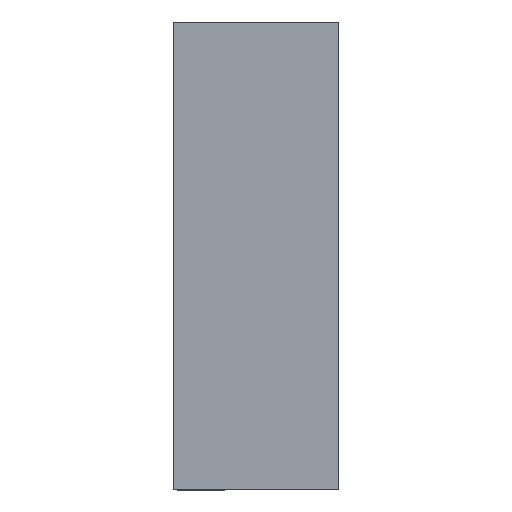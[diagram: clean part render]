
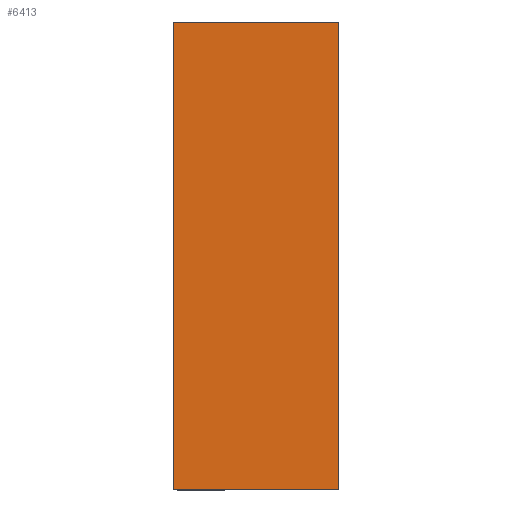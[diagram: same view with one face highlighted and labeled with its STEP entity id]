
A CAD part, top view. The second image highlights one B-rep face of the part: STEP entity #6413.
In plain terms, the highlighted planar face has unit normal (0, 0, 1).
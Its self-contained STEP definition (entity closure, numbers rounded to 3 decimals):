
#134 = PLANE('',#135);
#135 = AXIS2_PLACEMENT_3D('',#136,#137,#138);
#136 = CARTESIAN_POINT('',(-39.2,-18.9,-16.6));
#137 = DIRECTION('',(-0.,1.,0.));
#138 = DIRECTION('',(0.,0.,1.));
#296 = PLANE('',#297);
#297 = AXIS2_PLACEMENT_3D('',#298,#299,#300);
#298 = CARTESIAN_POINT('',(-39.2,2.9,-16.6));
#299 = DIRECTION('',(-0.,1.,0.));
#300 = DIRECTION('',(0.,0.,1.));
#1821 = VERTEX_POINT('',#1822);
#1822 = CARTESIAN_POINT('',(-39.2,2.9,-1.4));
#1836 = PLANE('',#1837);
#1837 = AXIS2_PLACEMENT_3D('',#1838,#1839,#1840);
#1838 = CARTESIAN_POINT('',(-39.2,-18.9,-3.4));
#1839 = DIRECTION('',(1.,0.,-0.));
#1840 = DIRECTION('',(0.,0.,1.));
#1848 = EDGE_CURVE('',#1821,#1849,#1851,.T.);
#1849 = VERTEX_POINT('',#1850);
#1850 = CARTESIAN_POINT('',(-31.5,2.9,-1.4));
#1851 = SURFACE_CURVE('',#1852,(#1856,#1863),.PCURVE_S1.);
#1852 = LINE('',#1853,#1854);
#1853 = CARTESIAN_POINT('',(-39.2,2.9,-1.4));
#1854 = VECTOR('',#1855,1.);
#1855 = DIRECTION('',(1.,0.,-0.));
#1856 = PCURVE('',#296,#1857);
#1857 = DEFINITIONAL_REPRESENTATION('',(#1858),#1862);
#1858 = LINE('',#1859,#1860);
#1859 = CARTESIAN_POINT('',(15.2,0.));
#1860 = VECTOR('',#1861,1.);
#1861 = DIRECTION('',(0.,1.));
#1862 = ( GEOMETRIC_REPRESENTATION_CONTEXT(2) 
PARAMETRIC_REPRESENTATION_CONTEXT() REPRESENTATION_CONTEXT('2D SPACE',''
  ) );
#1863 = PCURVE('',#1864,#1869);
#1864 = PLANE('',#1865);
#1865 = AXIS2_PLACEMENT_3D('',#1866,#1867,#1868);
#1866 = CARTESIAN_POINT('',(-39.2,-18.9,-1.4));
#1867 = DIRECTION('',(0.,0.,1.));
#1868 = DIRECTION('',(1.,0.,-0.));
#1869 = DEFINITIONAL_REPRESENTATION('',(#1870),#1874);
#1870 = LINE('',#1871,#1872);
#1871 = CARTESIAN_POINT('',(0.,21.8));
#1872 = VECTOR('',#1873,1.);
#1873 = DIRECTION('',(1.,0.));
#1874 = ( GEOMETRIC_REPRESENTATION_CONTEXT(2) 
PARAMETRIC_REPRESENTATION_CONTEXT() REPRESENTATION_CONTEXT('2D SPACE',''
  ) );
#1892 = PLANE('',#1893);
#1893 = AXIS2_PLACEMENT_3D('',#1894,#1895,#1896);
#1894 = CARTESIAN_POINT('',(-31.5,-18.9,-3.4));
#1895 = DIRECTION('',(1.,0.,-0.));
#1896 = DIRECTION('',(0.,0.,1.));
#2198 = VERTEX_POINT('',#2199);
#2199 = CARTESIAN_POINT('',(-39.2,-18.9,-1.4));
#2220 = EDGE_CURVE('',#2198,#2221,#2223,.T.);
#2221 = VERTEX_POINT('',#2222);
#2222 = CARTESIAN_POINT('',(-31.5,-18.9,-1.4));
#2223 = SURFACE_CURVE('',#2224,(#2228,#2235),.PCURVE_S1.);
#2224 = LINE('',#2225,#2226);
#2225 = CARTESIAN_POINT('',(-39.2,-18.9,-1.4));
#2226 = VECTOR('',#2227,1.);
#2227 = DIRECTION('',(1.,0.,-0.));
#2228 = PCURVE('',#134,#2229);
#2229 = DEFINITIONAL_REPRESENTATION('',(#2230),#2234);
#2230 = LINE('',#2231,#2232);
#2231 = CARTESIAN_POINT('',(15.2,0.));
#2232 = VECTOR('',#2233,1.);
#2233 = DIRECTION('',(0.,1.));
#2234 = ( GEOMETRIC_REPRESENTATION_CONTEXT(2) 
PARAMETRIC_REPRESENTATION_CONTEXT() REPRESENTATION_CONTEXT('2D SPACE',''
  ) );
#2235 = PCURVE('',#1864,#2236);
#2236 = DEFINITIONAL_REPRESENTATION('',(#2237),#2241);
#2237 = LINE('',#2238,#2239);
#2238 = CARTESIAN_POINT('',(0.,0.));
#2239 = VECTOR('',#2240,1.);
#2240 = DIRECTION('',(1.,0.));
#2241 = ( GEOMETRIC_REPRESENTATION_CONTEXT(2) 
PARAMETRIC_REPRESENTATION_CONTEXT() REPRESENTATION_CONTEXT('2D SPACE',''
  ) );
#4621 = EDGE_CURVE('',#2221,#1849,#4622,.T.);
#4622 = SURFACE_CURVE('',#4623,(#4627,#4634),.PCURVE_S1.);
#4623 = LINE('',#4624,#4625);
#4624 = CARTESIAN_POINT('',(-31.5,-18.9,-1.4));
#4625 = VECTOR('',#4626,1.);
#4626 = DIRECTION('',(-0.,1.,0.));
#4627 = PCURVE('',#1892,#4628);
#4628 = DEFINITIONAL_REPRESENTATION('',(#4629),#4633);
#4629 = LINE('',#4630,#4631);
#4630 = CARTESIAN_POINT('',(2.,0.));
#4631 = VECTOR('',#4632,1.);
#4632 = DIRECTION('',(0.,-1.));
#4633 = ( GEOMETRIC_REPRESENTATION_CONTEXT(2) 
PARAMETRIC_REPRESENTATION_CONTEXT() REPRESENTATION_CONTEXT('2D SPACE',''
  ) );
#4634 = PCURVE('',#1864,#4635);
#4635 = DEFINITIONAL_REPRESENTATION('',(#4636),#4640);
#4636 = LINE('',#4637,#4638);
#4637 = CARTESIAN_POINT('',(7.7,0.));
#4638 = VECTOR('',#4639,1.);
#4639 = DIRECTION('',(0.,1.));
#4640 = ( GEOMETRIC_REPRESENTATION_CONTEXT(2) 
PARAMETRIC_REPRESENTATION_CONTEXT() REPRESENTATION_CONTEXT('2D SPACE',''
  ) );
#6413 = ADVANCED_FACE('',(#6414),#1864,.T.);
#6414 = FACE_BOUND('',#6415,.T.);
#6415 = EDGE_LOOP('',(#6416,#6437,#6438,#6439));
#6416 = ORIENTED_EDGE('',*,*,#6417,.F.);
#6417 = EDGE_CURVE('',#2198,#1821,#6418,.T.);
#6418 = SURFACE_CURVE('',#6419,(#6423,#6430),.PCURVE_S1.);
#6419 = LINE('',#6420,#6421);
#6420 = CARTESIAN_POINT('',(-39.2,-18.9,-1.4));
#6421 = VECTOR('',#6422,1.);
#6422 = DIRECTION('',(-0.,1.,0.));
#6423 = PCURVE('',#1864,#6424);
#6424 = DEFINITIONAL_REPRESENTATION('',(#6425),#6429);
#6425 = LINE('',#6426,#6427);
#6426 = CARTESIAN_POINT('',(0.,0.));
#6427 = VECTOR('',#6428,1.);
#6428 = DIRECTION('',(0.,1.));
#6429 = ( GEOMETRIC_REPRESENTATION_CONTEXT(2) 
PARAMETRIC_REPRESENTATION_CONTEXT() REPRESENTATION_CONTEXT('2D SPACE',''
  ) );
#6430 = PCURVE('',#1836,#6431);
#6431 = DEFINITIONAL_REPRESENTATION('',(#6432),#6436);
#6432 = LINE('',#6433,#6434);
#6433 = CARTESIAN_POINT('',(2.,0.));
#6434 = VECTOR('',#6435,1.);
#6435 = DIRECTION('',(0.,-1.));
#6436 = ( GEOMETRIC_REPRESENTATION_CONTEXT(2) 
PARAMETRIC_REPRESENTATION_CONTEXT() REPRESENTATION_CONTEXT('2D SPACE',''
  ) );
#6437 = ORIENTED_EDGE('',*,*,#2220,.T.);
#6438 = ORIENTED_EDGE('',*,*,#4621,.T.);
#6439 = ORIENTED_EDGE('',*,*,#1848,.F.);
